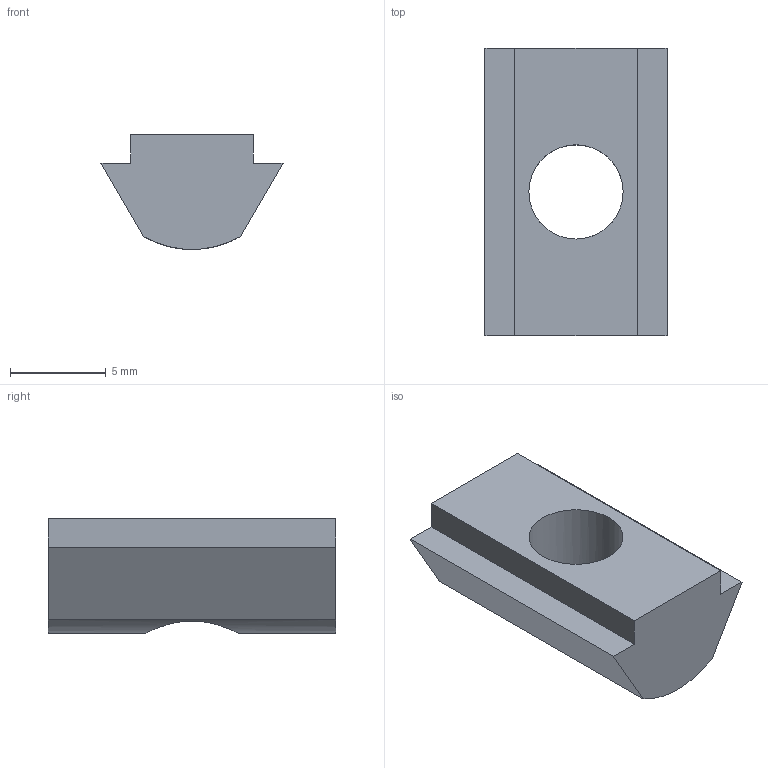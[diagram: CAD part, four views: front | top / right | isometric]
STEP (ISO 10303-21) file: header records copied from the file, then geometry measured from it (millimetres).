
FILE_DESCRIPTION(/* description */ ('Unknown'),/* implementation_level */ '2;1');
FILE_NAME(/* name */ 'IS06',/* time_stamp */ '2026-09-29T09:56:25+08:00',/* author */ ('Unknown'),/* organization */ ('Unknown'),/* preprocessor_version */ 'ST-DEVELOPER v16.7',/* originating_system */ 'DEX',/* authorisation */ $);
FILE_SCHEMA (('AUTOMOTIVE_DESIGN {1 0 10303 214 3 1 1}'));
Length unit declared in the file: millimetre
Products named in the file (1): IS06
Bounding box: 9.5 x 15 x 6 mm (x, y, z)
Volume: 485.7 mm3; surface area: 528.3 mm2
Topology: 1 solids, 1 shells, 11 faces, 27 edges, 18 vertices
Faces by surface type: plane 9, cylinder 2
Full cylindrical faces by diameter (mm): 4.917 x1
Entity records: 440 total; most frequent: CARTESIAN_POINT 74, ORIENTED_EDGE 52, DIRECTION 52, EDGE_CURVE 26, LINE 22, VECTOR 22, VERTEX_POINT 18, AXIS2_PLACEMENT_3D 15
